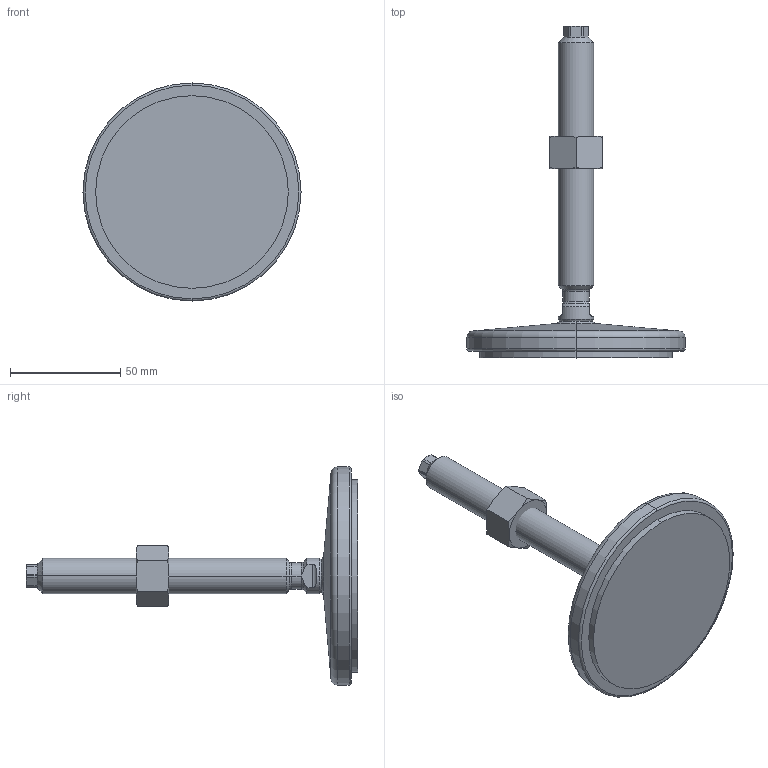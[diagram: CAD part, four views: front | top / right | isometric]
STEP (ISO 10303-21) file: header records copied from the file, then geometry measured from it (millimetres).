
FILE_DESCRIPTION (( 'STEP AP214' ), '1' );
FILE_NAME ('21-100-M16-125-D1-VK.step', '2020-10-02T17:37:21', ( '' ), ( '' ), 'SwSTEP 2.0', 'SolidWorks 2019', '' );
FILE_SCHEMA (( 'AUTOMOTIVE_DESIGN' ));
Length unit declared in the file: millimetre
Products named in the file (4): WB21_Spindel_V^WB21_V_M16-125; WB4032^WB21_V_M16; 21-100-M16-125-D1-VK; WB21_Fußteller 21^WB21_V_D1-100-R10-B7 (M8 M10_M12_M16)
Assembly tree (3 placements, depth 2):
  21-100-M16-125-D1-VK
    WB21_Fußteller 21^WB21_V_D1-100-R10-B7 (M8 M10_M12_M16)
    WB21_Spindel_V^WB21_V_M16-125
    WB4032^WB21_V_M16
Bounding box: 99 x 150.64 x 99 mm (x, y, z)
Volume: 128502.1 mm3; surface area: 28415.7 mm2
Topology: 3 solids, 3 shells, 98 faces, 219 edges, 129 vertices
Faces by surface type: cone 29, plane 28, cylinder 27, torus 10, sphere 4
Entity records: 3121 total; most frequent: CARTESIAN_POINT 728, DIRECTION 476, ORIENTED_EDGE 438, EDGE_CURVE 219, AXIS2_PLACEMENT_3D 205, VERTEX_POINT 129, EDGE_LOOP 102, CIRCLE 101
